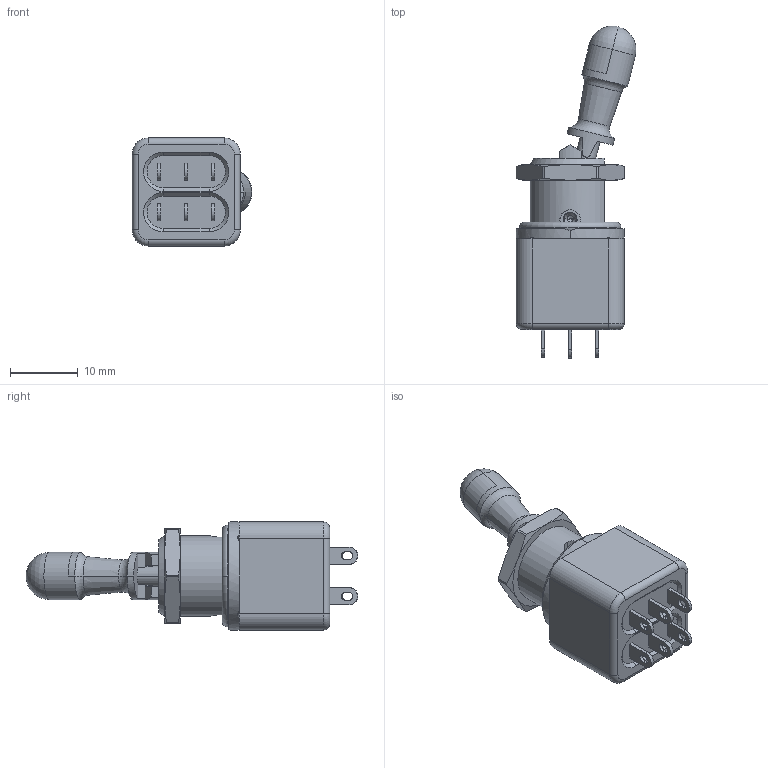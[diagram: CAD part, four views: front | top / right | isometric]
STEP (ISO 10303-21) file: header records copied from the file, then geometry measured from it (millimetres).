
FILE_DESCRIPTION((''),'2;1');
FILE_NAME('12146-2VX778','2009-10-26T',('francis'),(''),'PRO/ENGINEER BY PARAMETRIC TECHNOLOGY CORPORATION, 2008400','PRO/ENGINEER BY PARAMETRIC TECHNOLOGY CORPORATION, 2008400','');
FILE_SCHEMA(('CONFIG_CONTROL_DESIGN'));
Length unit declared in the file: millimetre
Products named in the file (1): 12146-2VX778
Bounding box: 17.72 x 49.13 x 16 mm (x, y, z)
Volume: 2881.6 mm3; surface area: 5871.6 mm2
Topology: 3 solids, 3 shells, 710 faces, 1976 edges, 1283 vertices
Faces by surface type: plane 482, cylinder 151, cone 47, torus 18, sphere 12
Entity records: 23515 total; most frequent: CARTESIAN_POINT 5100, ORIENTED_EDGE 3940, DIRECTION 3694, EDGE_CURVE 1970, VECTOR 1438, LINE 1438, VERTEX_POINT 1283, AXIS2_PLACEMENT_3D 1128
